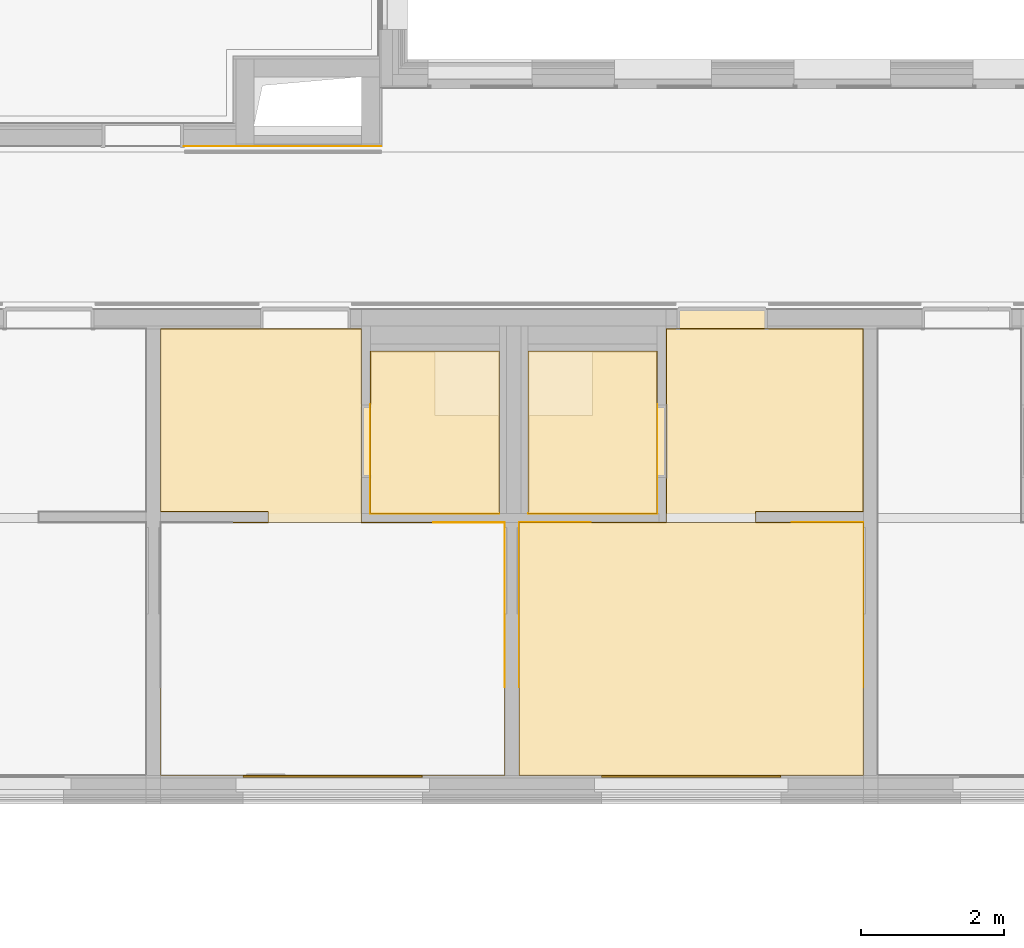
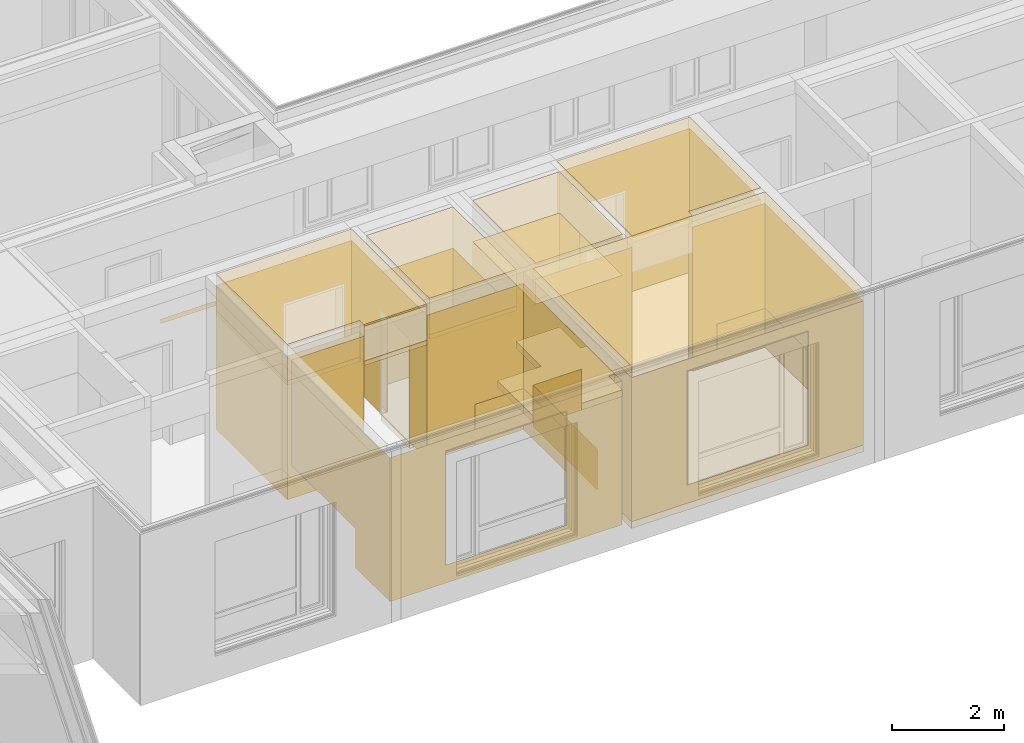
# One storey, part 184 of 222: 30 coverings.
"""IFC4 building model written with IfcOpenShell, lengths in metres."""

from ifc_helpers import new_model, entity, si_unit, converted_unit, derived_unit, frame, frame_2d, origin, origin_with_axes, place, context, subcontext, project, spatial, polyline, rectangle, outline, extrude, material, layer, layer_set, layer_usage, element, save


model = new_model("IFC4")

# Units and contexts
model_context = context("Model", 3, precision=1e-05, world=origin())
body_context = subcontext(model_context, "Body", "Model", "MODEL_VIEW")
ifc_project = project(units=[si_unit("LENGTHUNIT", "METRE"), si_unit("AREAUNIT", "SQUARE_METRE"), si_unit("VOLUMEUNIT", "CUBIC_METRE"), si_unit("MASSUNIT", "GRAM", prefix="KILO"), converted_unit("PLANEANGLEUNIT", "DEGREE", entity("IfcPlaneAngleMeasure", 0.0174532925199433), si_unit("PLANEANGLEUNIT", "RADIAN"), dimensions=[0, 0, 0, 0, 0, 0, 0]), derived_unit("THERMALTRANSMITTANCEUNIT", [(si_unit("POWERUNIT", "WATT"), 1), (si_unit("THERMODYNAMICTEMPERATUREUNIT", "KELVIN"), -1), (si_unit("LENGTHUNIT", "METRE"), -2)]), derived_unit("VOLUMETRICFLOWRATEUNIT", [(si_unit("LENGTHUNIT", "METRE"), 3), (converted_unit("TIMEUNIT", "hour", entity("IfcTimeMeasure", 3600.0), si_unit("TIMEUNIT", "SECOND"), dimensions=[0, 0, 1, 0, 0, 0, 0]), -1), (si_unit("LENGTHUNIT", "METRE"), -1)])], contexts=[model_context])

# Site, building, storey, space
site_placement = place(None, origin())
site = spatial("IfcSite", under=ifc_project, at=site_placement, Name="Psychiatrie Neubau Wunstorf", CompositionType="ELEMENT")
building_placement = place(site_placement, origin())
building = spatial("IfcBuilding", under=site, at=building_placement, Name="Neubau H2 Stationsgebäude", CompositionType="ELEMENT")
storey_placement = place(building_placement, frame((0.0, 0.0, 3.6)))
storey = spatial("IfcBuildingStorey", under=building, at=storey_placement, Name="H2 Ebene +1", CompositionType="ELEMENT", Elevation=3.6)
space_1_placement = place(storey_placement, frame((73.3949999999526, 5.33250000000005, 0.0)))
space_1 = spatial("IfcSpace", under=storey, at=space_1_placement, Name="WUN-H2-E01-073", CompositionType="ELEMENT")

# Covering
ifc_material_1 = material(Name="97")
ifc_layer_1 = layer(ifc_material_1, 0.001)
ifc_layer_set_1 = layer_set([ifc_layer_1])
ifc_layer_usage_1 = layer_usage(ifc_layer_set_1, "AXIS3", "POSITIVE", 0.0)
covering_1_placement = place(space_1_placement, frame((3.02500000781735, 2.275, 0.8)))
element("IfcCovering", 1, at=covering_1_placement, inside=space_1, material=ifc_layer_usage_1, Name="Handlauf", PredefinedType="CLADDING", context=body_context, shape_type="SweptSolid", body=[
    extrude(rectangle(XDim=2.75999962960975, YDim=0.1, at=frame_2d((-1.37999981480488, 0.05), x_axis=(-1.0, 0.0))), frame((0.0, 0.0, 0.1), z_axis=(-3.29527110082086e-16, -1.0, 0.0), x_axis=(-1.0, 3.29527110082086e-16, 0.0)), (0.0, 0.0, 1.0), 0.001),
])

# Space
space_2_placement = place(storey_placement, frame((81.1, -1.16399999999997, 0.0)))
space_2 = spatial("IfcSpace", under=storey, at=space_2_placement, Name="WUN-H2-E01-094", CompositionType="ELEMENT")

# Coverings
ifc_material_2 = material(Name="84")
ifc_layer_2 = layer(ifc_material_2, 0.001)
ifc_layer_set_2 = layer_set([ifc_layer_2])
ifc_layer_usage_2 = layer_usage(ifc_layer_set_2, "AXIS3", "POSITIVE", 0.0)
covering_2_placement = place(space_2_placement, frame((0.0, 1.22450000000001, 0.1)))
element("IfcCovering", 2, at=covering_2_placement, inside=space_2, material=ifc_layer_usage_2, Name="Acrovyn", PredefinedType="CLADDING", context=body_context, shape_type="SweptSolid", body=[
    extrude(rectangle(XDim=1.0, YDim=0.9, at=frame_2d((0.5, -0.45), x_axis=(1.0, 0.0))), frame((1.0, 2.3, 0.0), z_axis=(0.0, -1.0, 0.0), x_axis=(-1.0, 0.0, 0.0)), (0.0, 0.0, 1.0), 0.001),
    extrude(rectangle(XDim=2.3, YDim=0.9, at=frame_2d((1.15, -0.45), x_axis=(1.0, 0.0))), frame((0.0, 2.3, 0.0), z_axis=(1.0, 0.0, 0.0), x_axis=(0.0, -1.0, 0.0)), (0.0, 0.0, 1.0), 0.001),
])
ifc_material_3 = material(Name="84")
ifc_layer_3 = layer(ifc_material_3, 0.001)
ifc_layer_set_3 = layer_set([ifc_layer_3])
ifc_layer_usage_3 = layer_usage(ifc_layer_set_3, "AXIS3", "POSITIVE", 0.0)
covering_3_placement = place(space_2_placement, frame((3.80000004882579, 1.2245, 0.1)))
element("IfcCovering", 3, at=covering_3_placement, inside=space_2, material=ifc_layer_usage_3, Name="Acrovyn", PredefinedType="CLADDING", context=body_context, shape_type="SweptSolid", body=[
    extrude(rectangle(XDim=0.9, YDim=1.0, at=frame_2d((-0.5, -0.45), x_axis=(0.0, -1.0))), frame((0.0, 2.3, 0.0), z_axis=(4.54747350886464e-16, -1.0, 0.0), x_axis=(-1.0, -4.54747350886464e-16, 0.0)), (0.0, 0.0, 1.0), 0.001),
    extrude(rectangle(XDim=0.9, YDim=2.3, at=frame_2d((-1.15, -0.45), x_axis=(0.0, -1.0))), frame((1.0, 2.3, 0.0), z_axis=(-1.0, 0.0, 0.0), x_axis=(0.0, 1.0, 0.0)), (0.0, 0.0, 1.0), 0.001),
])
ifc_material_4 = material()
ifc_layer_4 = layer(ifc_material_4, 0.036)
ifc_layer_set_4 = layer_set([ifc_layer_4])
ifc_layer_usage_4 = layer_usage(ifc_layer_set_4, "AXIS3", "POSITIVE", 0.0)
covering_4_placement = place(space_2_placement, frame((2.04999999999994, 3.52450000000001, 3.55)))
element("IfcCovering", 4, at=covering_4_placement, inside=space_2, material=ifc_layer_usage_4, Name="Gipsfaserplatten 2-lagig (BSK)", PredefinedType="CEILING", context=body_context, shape_type="SweptSolid", body=[
    extrude(outline(polyline([(0.0, 0.0), (2.75000004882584, 0.0), (2.75000004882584, 2.55000000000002), (1.25000004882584, 2.55000000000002), (1.25000004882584, 2.7), (0.0, 2.7), (0.0, 0.0)])), frame((0.0, 2.7, 0.0), z_axis=(0.0, 0.0, -1.0), x_axis=(1.0, 0.0, 0.0)), (0.0, 0.0, 1.0), 0.036),
])
ifc_material_5 = material(Name="Ku1")
ifc_layer_5 = layer(ifc_material_5, 0.15)
ifc_layer_set_5 = layer_set([ifc_layer_5])
ifc_layer_usage_5 = layer_usage(ifc_layer_set_5, "AXIS3", "POSITIVE", 0.0)
covering_5_placement = place(space_2_placement, origin())
element("IfcCovering", 5, at=covering_5_placement, inside=space_2, material=ifc_layer_usage_5, Name="PVC Bahnenware Holzoptik", PredefinedType="FLOORING", context=body_context, shape_type="SweptSolid", body=[
    extrude(rectangle(XDim=0.272, YDim=1.26, at=frame_2d((-0.63, 0.136), x_axis=(0.0, 1.0))), frame((3.45999999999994, 6.22450000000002, 0.0), z_axis=(0.0, 0.0, 1.0), x_axis=(1.0, 0.0, 0.0)), (0.0, 0.0, 1.0), 0.15),
    extrude(outline(polyline([(3.30000004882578, 3.67449999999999), (4.80000004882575, 3.67449999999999), (4.80000004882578, 6.22450000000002), (2.04999999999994, 6.22450000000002), (2.04999999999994, 3.52450000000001), (0.0, 3.52450000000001), (0.0, 0.0), (4.80000004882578, 0.0), (4.80000004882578, 3.52449999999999), (3.30000004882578, 3.52449999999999), (3.30000004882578, 3.67449999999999)])), origin_with_axes(), (0.0, 0.0, 1.0), 0.15),
])
ifc_material_6 = material()
ifc_layer_6 = layer(ifc_material_6, 0.036)
ifc_layer_set_6 = layer_set([ifc_layer_6])
ifc_layer_usage_6 = layer_usage(ifc_layer_set_6, "AXIS3", "POSITIVE", 0.0)
covering_6_placement = place(space_2_placement, frame((0.0, 0.0, 3.55)))
element("IfcCovering", 6, at=covering_6_placement, inside=space_2, material=ifc_layer_usage_6, Name="Gipsfaserplatten 2-lagig (BSK)", PredefinedType="CEILING", context=body_context, shape_type="SweptSolid", body=[
    extrude(rectangle(XDim=3.52449999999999, YDim=4.80000004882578, at=frame_2d((-2.40000002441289, 1.76225), x_axis=(0.0, 1.0))), frame((4.80000004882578, 3.52449999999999, 0.0), z_axis=(0.0, 0.0, -1.0), x_axis=(1.0, 0.0, 0.0)), (0.0, 0.0, 1.0), 0.036),
])
ifc_material_7 = material(Name="Installationshöhe")
ifc_layer_7 = layer(ifc_material_7, 0.114)
ifc_layer_set_7 = layer_set([ifc_layer_7])
ifc_layer_usage_7 = layer_usage(ifc_layer_set_7, "AXIS3", "POSITIVE", 0.0)
covering_7_placement = place(space_2_placement, frame((0.0, 0.0, 3.514)))
element("IfcCovering", 7, at=covering_7_placement, inside=space_2, material=ifc_layer_usage_7, Name="Gipsfaserplatten 2-lagig (BSK)", PredefinedType="CEILING", context=body_context, shape_type="SweptSolid", body=[
    extrude(rectangle(XDim=3.52449999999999, YDim=4.80000004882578, at=frame_2d((-2.40000002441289, 1.76225), x_axis=(0.0, 1.0))), frame((4.80000004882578, 3.52449999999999, 0.0), z_axis=(0.0, 0.0, -1.0), x_axis=(1.0, 0.0, 0.0)), (0.0, 0.0, 1.0), 0.114),
])
ifc_material_8 = material(Name="A1")
ifc_layer_8 = layer(ifc_material_8, 0.1)
ifc_layer_set_8 = layer_set([ifc_layer_8])
ifc_layer_usage_8 = layer_usage(ifc_layer_set_8, "AXIS3", "POSITIVE", 0.0)
covering_8_placement = place(space_2_placement, frame((0.0, 0.0, 3.4)))
element("IfcCovering", 8, at=covering_8_placement, inside=space_2, material=ifc_layer_usage_8, Name="Gipsfaserplatten 2-lagig (BSK)", PredefinedType="CEILING", context=body_context, shape_type="SweptSolid", body=[
    extrude(rectangle(XDim=3.52449999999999, YDim=4.80000004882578, at=frame_2d((-2.40000002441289, 1.76225), x_axis=(0.0, 1.0))), frame((4.80000004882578, 3.52449999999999, 0.0), z_axis=(0.0, 0.0, -1.0), x_axis=(1.0, 0.0, 0.0)), (0.0, 0.0, 1.0), 0.1),
])
ifc_material_9 = material(Name="D1")
ifc_layer_9 = layer(ifc_material_9, 0.001)
ifc_layer_set_9 = layer_set([ifc_layer_9])
ifc_layer_usage_9 = layer_usage(ifc_layer_set_9, "AXIS3", "POSITIVE", 0.0)
covering_9_placement = place(space_2_placement, frame((0.0, 0.0, 3.3)))
element("IfcCovering", 9, at=covering_9_placement, inside=space_2, material=ifc_layer_usage_9, Name="Gipsfaserplatten 2-lagig (BSK)", PredefinedType="CEILING", context=body_context, shape_type="SweptSolid", body=[
    extrude(rectangle(XDim=3.52449999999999, YDim=4.80000004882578, at=frame_2d((-2.40000002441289, 1.76225), x_axis=(0.0, 1.0))), frame((4.80000004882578, 3.52449999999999, 0.0), z_axis=(0.0, 0.0, -1.0), x_axis=(1.0, 0.0, 0.0)), (0.0, 0.0, 1.0), 0.001),
])
ifc_material_10 = material(Name="49")
ifc_layer_10 = layer(ifc_material_10, 0.001)
ifc_layer_set_10 = layer_set([ifc_layer_10])
ifc_layer_usage_10 = layer_usage(ifc_layer_set_10, "AXIS3", "POSITIVE", 0.0)
covering_10_placement = place(space_2_placement, frame((0.0, -0.0250000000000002, 0.15)))
element("IfcCovering", 10, at=covering_10_placement, inside=space_2, material=ifc_layer_usage_10, PredefinedType="CLADDING", context=body_context, shape_type="SweptSolid", body=[
    extrude(outline(polyline([(0.999999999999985, 3.15), (1.5, 3.15), (1.5, 0.0), (0.0, 0.0), (0.0, 2.3), (0.999999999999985, 2.3), (0.999999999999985, 3.15)])), frame((4.80000004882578, 3.54949999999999, 3.15), z_axis=(-1.8708796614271e-15, -1.0, -7.92505756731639e-16), x_axis=(-1.0, 1.8708796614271e-15, 0.0)), (0.0, 0.0, 1.0), 0.001),
    extrude(rectangle(XDim=0.149999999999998, YDim=3.15, at=frame_2d((0.0749999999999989, -1.575), x_axis=(1.0, 0.0))), frame((3.30000004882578, 3.54949999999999, 0.0), z_axis=(-1.0, 0.0, 0.0), x_axis=(0.0, 1.0, 0.0)), (0.0, 0.0, 1.0), 0.001),
    extrude(rectangle(XDim=1.49999999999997, YDim=3.15, at=frame_2d((0.749999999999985, -1.575), x_axis=(1.0, 0.0))), frame((3.30000004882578, 3.69949999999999, 0.0), z_axis=(0.0, 1.0, 0.0), x_axis=(1.0, 0.0, 0.0)), (0.0, 0.0, 1.0), 0.001),
    extrude(rectangle(XDim=2.55000000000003, YDim=3.15, at=frame_2d((1.27500000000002, -1.575), x_axis=(1.0, 0.0))), frame((4.80000004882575, 3.69949999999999, 0.0), z_axis=(-1.0, 1.14132668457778e-14, 0.0), x_axis=(1.14132668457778e-14, 1.0, 0.0)), (0.0, 0.0, 1.0), 0.001),
    extrude(outline(polyline([(0.0, 3.15), (1.34000004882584, 3.15), (1.34000004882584, 0.89), (2.60000004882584, 0.89), (2.60000004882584, 3.15), (2.75000004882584, 3.15), (2.75000004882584, 0.0), (0.0, 0.0), (0.0, 3.15)])), frame((4.80000004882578, 6.24950000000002, 3.15), z_axis=(0.0, -1.0, -1.16864078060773e-16), x_axis=(-1.0, 0.0, 0.0)), (0.0, 0.0, 1.0), 0.001),
    extrude(outline(polyline([(0.0, 3.15), (1.06500000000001, 3.15), (1.06500000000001, 0.89), (2.07500000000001, 0.89), (2.07500000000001, 3.15), (2.70000000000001, 3.15), (2.70000000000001, 0.0), (0.0, 0.0), (0.0, 3.15)])), frame((2.04999999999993, 6.24950000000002, 3.15), z_axis=(1.0, 0.0, -1.55997637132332e-15), x_axis=(0.0, -1.0, 0.0)), (0.0, 0.0, 1.0), 0.001),
    extrude(outline(polyline([(0.0, 3.15), (1.04999999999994, 3.15), (1.04999999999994, 2.3), (2.04999999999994, 2.3), (2.04999999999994, 0.0), (0.0, 0.0), (0.0, 3.15)])), frame((2.04999999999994, 3.54950000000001, 3.15), z_axis=(0.0, -1.0, 0.0), x_axis=(-1.0, 0.0, 0.0)), (0.0, 0.0, 1.0), 0.001),
    extrude(outline(polyline([(2.3, 3.15), (3.52450000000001, 3.15), (3.52450000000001, 0.0), (0.0, 0.0), (0.0, 2.3), (2.3, 2.3), (2.3, 3.15)])), frame((0.0, 3.54950000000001, 3.15), z_axis=(1.0, 0.0, 0.0), x_axis=(0.0, -1.0, 0.0)), (0.0, 0.0, 1.0), 0.001),
    extrude(outline(polyline([(0.0, 3.15), (4.80000004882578, 3.15), (4.80000004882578, 0.0), (0.0, 0.0), (0.0, 3.15)]), holes=[polyline([(3.65000004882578, 2.75), (1.15000004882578, 2.75), (1.15000004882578, 0.25), (3.65000004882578, 0.25), (3.65000004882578, 2.75)])]), frame((0.0, 0.0249999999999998, 3.15), z_axis=(2.12797074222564e-16, 1.0, 0.0), x_axis=(1.0, -2.12797074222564e-16, 0.0)), (0.0, 0.0, 1.0), 0.001),
    extrude(outline(polyline([(0.0, 3.15), (1.2245, 3.15), (1.2245, 2.3), (3.52449999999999, 2.3), (3.52449999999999, 0.0), (0.0, 0.0), (0.0, 3.15)])), frame((4.80000004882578, 0.0250000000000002, 3.15), z_axis=(-1.0, -1.39844789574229e-15, -1.21857413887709e-15), x_axis=(-1.39844789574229e-15, 1.0, 0.0)), (0.0, 0.0, 1.0), 0.001),
    extrude(rectangle(XDim=0.0249999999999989, YDim=2.5, at=frame_2d((0.0124999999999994, -1.25), x_axis=(1.0, 0.0))), frame((1.15000004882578, 0.0249999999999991, 0.4), z_axis=(1.0, -2.9103830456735e-13, 2.91038304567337e-15), x_axis=(-2.9103830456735e-13, -1.0, 0.0)), (0.0, 0.0, 1.0), 0.001),
    extrude(rectangle(XDim=2.5, YDim=0.0249999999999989, at=frame_2d((-1.25000000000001, 0.0124999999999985), x_axis=(-1.0, -7.27595761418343e-16))), frame((3.65000004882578, 0.0249999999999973, 2.9), z_axis=(0.0, 0.0, -1.0), x_axis=(1.0, 0.0, 0.0)), (0.0, 0.0, 1.0), 0.001),
    extrude(rectangle(XDim=2.5, YDim=0.0249999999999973, at=frame_2d((-0.0124999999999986, -1.25), x_axis=(0.0, -1.0))), frame((3.65000004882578, 0.0249999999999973, 0.4), z_axis=(-1.0, 0.0, 0.0), x_axis=(0.0, 1.0, 0.0)), (0.0, 0.0, 1.0), 0.001),
])

# Space
space_3_placement = place(storey_placement, frame((76.0999999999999, -1.16399999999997, 0.0)))
space_3 = spatial("IfcSpace", under=storey, at=space_3_placement, Name="WUN-H2-E01-095", CompositionType="ELEMENT")

# Coverings
ifc_material_11 = material(Name="84")
ifc_layer_11 = layer(ifc_material_11, 0.001)
ifc_layer_set_11 = layer_set([ifc_layer_11])
ifc_layer_usage_11 = layer_usage(ifc_layer_set_11, "AXIS3", "POSITIVE", 0.0)
covering_11_placement = place(space_3_placement, frame((3.80000000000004, 1.22450000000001, 0.1)))
element("IfcCovering", 11, at=covering_11_placement, inside=space_3, material=ifc_layer_usage_11, Name="Acrovyn", PredefinedType="CLADDING", context=body_context, shape_type="SweptSolid", body=[
    extrude(rectangle(XDim=0.9, YDim=1.0, at=frame_2d((-0.5, -0.45), x_axis=(0.0, -1.0))), frame((0.0, 2.3, 0.0), z_axis=(4.54747350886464e-16, -1.0, 0.0), x_axis=(-1.0, -4.54747350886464e-16, 0.0)), (0.0, 0.0, 1.0), 0.001),
    extrude(rectangle(XDim=0.9, YDim=2.3, at=frame_2d((-1.15, -0.45), x_axis=(0.0, -1.0))), frame((1.0, 2.3, 0.0), z_axis=(-1.0, 0.0, 0.0), x_axis=(0.0, 1.0, 0.0)), (0.0, 0.0, 1.0), 0.001),
])
ifc_material_12 = material()
ifc_layer_12 = layer(ifc_material_12, 0.036)
ifc_layer_set_12 = layer_set([ifc_layer_12])
ifc_layer_usage_12 = layer_usage(ifc_layer_set_12, "AXIS3", "POSITIVE", 0.0)
covering_12_placement = place(space_3_placement, frame((0.0, 3.52449999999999, 3.55)))
element("IfcCovering", 12, at=covering_12_placement, inside=space_3, material=ifc_layer_usage_12, Name="Gipsfaserplatten 2-lagig (BSK)", PredefinedType="CEILING", context=body_context, shape_type="SweptSolid", body=[
    extrude(outline(polyline([(2.79999999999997, 0.0), (2.80000000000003, 2.70000000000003), (1.50000000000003, 2.70000000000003), (1.50000000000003, 2.55000000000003), (0.0, 2.55000000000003), (0.0, 0.0), (2.79999999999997, 0.0)])), frame((0.0, 2.70000000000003, 0.0), z_axis=(0.0, 0.0, -1.0), x_axis=(1.0, 0.0, 0.0)), (0.0, 0.0, 1.0), 0.036),
])
ifc_material_13 = material(Name="Installationshöhe")
ifc_layer_13 = layer(ifc_material_13, 0.764)
ifc_layer_set_13 = layer_set([ifc_layer_13])
ifc_layer_usage_13 = layer_usage(ifc_layer_set_13, "AXIS3", "POSITIVE", 0.0)
covering_13_placement = place(space_3_placement, frame((0.0, 3.52449999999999, 3.514)))
element("IfcCovering", 13, at=covering_13_placement, inside=space_3, material=ifc_layer_usage_13, Name="Gipsfaserplatten 2-lagig (BSK)", PredefinedType="CEILING", context=body_context, shape_type="SweptSolid", body=[
    extrude(outline(polyline([(2.79999999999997, 0.0), (2.80000000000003, 2.70000000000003), (1.50000000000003, 2.70000000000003), (1.50000000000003, 2.55000000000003), (0.0, 2.55000000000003), (0.0, 0.0), (2.79999999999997, 0.0)])), frame((0.0, 2.70000000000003, 0.0), z_axis=(0.0, 0.0, -1.0), x_axis=(1.0, 0.0, 0.0)), (0.0, 0.0, 1.0), 0.764),
])
ifc_material_14 = material(Name="A1")
ifc_layer_14 = layer(ifc_material_14, 0.1)
ifc_layer_set_14 = layer_set([ifc_layer_14])
ifc_layer_usage_14 = layer_usage(ifc_layer_set_14, "AXIS3", "POSITIVE", 0.0)
covering_14_placement = place(space_3_placement, frame((0.0, 3.52449999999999, 2.75)))
element("IfcCovering", 14, at=covering_14_placement, inside=space_3, material=ifc_layer_usage_14, Name="Gipsfaserplatten 2-lagig (BSK)", PredefinedType="CEILING", context=body_context, shape_type="SweptSolid", body=[
    extrude(outline(polyline([(2.79999999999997, 0.0), (2.80000000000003, 2.70000000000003), (1.50000000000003, 2.70000000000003), (1.50000000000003, 2.55000000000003), (0.0, 2.55000000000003), (0.0, 0.0), (2.79999999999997, 0.0)])), frame((0.0, 2.70000000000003, 0.0), z_axis=(0.0, 0.0, -1.0), x_axis=(1.0, 0.0, 0.0)), (0.0, 0.0, 1.0), 0.1),
])
ifc_material_15 = material(Name="D1")
ifc_layer_15 = layer(ifc_material_15, 0.001)
ifc_layer_set_15 = layer_set([ifc_layer_15])
ifc_layer_usage_15 = layer_usage(ifc_layer_set_15, "AXIS3", "POSITIVE", 0.0)
covering_15_placement = place(space_3_placement, frame((0.0, 3.52449999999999, 2.65)))
element("IfcCovering", 15, at=covering_15_placement, inside=space_3, material=ifc_layer_usage_15, Name="Gipsfaserplatten 2-lagig (BSK)", PredefinedType="CEILING", context=body_context, shape_type="SweptSolid", body=[
    extrude(outline(polyline([(2.79999999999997, 0.0), (2.80000000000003, 2.70000000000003), (1.50000000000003, 2.70000000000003), (1.50000000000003, 2.55000000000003), (0.0, 2.55000000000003), (0.0, 0.0), (2.79999999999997, 0.0)])), frame((0.0, 2.70000000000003, 0.0), z_axis=(0.0, 0.0, -1.0), x_axis=(1.0, 0.0, 0.0)), (0.0, 0.0, 1.0), 0.001),
])
ifc_material_16 = material(Name="49")
ifc_layer_16 = layer(ifc_material_16, 0.001)
ifc_layer_set_16 = layer_set([ifc_layer_16])
ifc_layer_usage_16 = layer_usage(ifc_layer_set_16, "AXIS3", "POSITIVE", 0.0)
covering_16_placement = place(space_3_placement, frame((0.0, -0.025, 0.15)))
element("IfcCovering", 16, at=covering_16_placement, inside=space_3, material=ifc_layer_usage_16, PredefinedType="CLADDING", context=body_context, shape_type="SweptSolid", body=[
    extrude(outline(polyline([(0.999999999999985, 3.15), (2.0, 3.15), (2.0, 0.0), (0.0, 0.0), (0.0, 2.3), (0.999999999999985, 2.3), (0.999999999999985, 3.15)])), frame((4.8, 3.54950000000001, 3.15), z_axis=(7.44700937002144e-16, -1.0, -8.76118749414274e-16), x_axis=(-1.0, -7.44700937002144e-16, 0.0)), (0.0, 0.0, 1.0), 0.001),
    extrude(outline(polyline([(0.0, 3.15), (0.625, 3.15), (0.625, 0.89), (1.635, 0.89), (1.635, 3.15), (2.70000000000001, 3.15), (2.70000000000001, 0.0), (0.0, 0.0), (0.0, 3.15)])), frame((2.80000000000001, 3.5495, 3.15), z_axis=(-1.0, -1.91174332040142e-14, 8.07017479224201e-16), x_axis=(-1.91174332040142e-14, 1.0, 0.0)), (0.0, 0.0, 1.0), 0.001),
    extrude(outline(polyline([(0.0, 3.15), (0.149999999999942, 3.15), (0.149999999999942, 0.89), (1.40999999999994, 0.89), (1.40999999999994, 3.15), (2.79999999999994, 3.15), (2.79999999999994, 0.0), (0.0, 0.0), (0.0, 3.15)])), frame((2.79999999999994, 6.24950000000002, 3.15), z_axis=(0.0, -1.0, -1.15016718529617e-16), x_axis=(-1.0, 0.0, 0.0)), (0.0, 0.0, 1.0), 0.001),
    extrude(rectangle(XDim=2.55000000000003, YDim=3.15, at=frame_2d((1.27500000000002, -1.575), x_axis=(1.0, 0.0))), frame((0.0, 6.24950000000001, 0.0), z_axis=(1.0, -1.14132668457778e-14, 0.0), x_axis=(-1.14132668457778e-14, -1.0, 0.0)), (0.0, 0.0, 1.0), 0.001),
    extrude(rectangle(XDim=1.50000000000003, YDim=3.15, at=frame_2d((0.750000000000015, -1.575), x_axis=(1.0, 0.0))), frame((0.0, 3.69949999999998, 0.0), z_axis=(0.0, 1.0, 0.0), x_axis=(1.0, 0.0, 0.0)), (0.0, 0.0, 1.0), 0.001),
    extrude(rectangle(XDim=0.15, YDim=3.15, at=frame_2d((0.0749999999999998, -1.575), x_axis=(1.0, 0.0))), frame((1.5, 3.69949999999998, 0.0), z_axis=(1.0, 0.0, 0.0), x_axis=(0.0, -1.0, 0.0)), (0.0, 0.0, 1.0), 0.001),
    extrude(outline(polyline([(0.0, 3.15), (0.5, 3.15), (0.5, 2.3), (1.5, 2.3), (1.5, 0.0), (0.0, 0.0), (0.0, 3.15)])), frame((1.5, 3.54949999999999, 3.15), z_axis=(0.0, -1.0, 0.0), x_axis=(-1.0, 0.0, 0.0)), (0.0, 0.0, 1.0), 0.001),
    extrude(outline(polyline([(2.3, 3.15), (3.52449999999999, 3.15), (3.52449999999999, 0.0), (0.0, 0.0), (0.0, 2.3), (2.3, 2.3), (2.3, 3.15)])), frame((0.0, 3.54949999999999, 3.15), z_axis=(1.0, 0.0, 0.0), x_axis=(0.0, -1.0, 0.0)), (0.0, 0.0, 1.0), 0.001),
    extrude(outline(polyline([(0.0, 3.15), (4.8, 3.15), (4.8, 0.0), (0.0, 0.0), (0.0, 3.15)]), holes=[polyline([(3.65000004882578, 2.75), (1.15000004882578, 2.75), (1.15000004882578, 0.25), (3.65000004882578, 0.25), (3.65000004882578, 2.75)])]), frame((0.0, 0.0249999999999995, 3.15), z_axis=(2.12797075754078e-16, 1.0, 0.0), x_axis=(1.0, -2.12797075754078e-16, 0.0)), (0.0, 0.0, 1.0), 0.001),
    extrude(outline(polyline([(0.0, 3.15), (1.22450000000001, 3.15), (1.22450000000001, 2.3), (3.52450000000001, 2.3), (3.52450000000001, 0.0), (0.0, 0.0), (0.0, 3.15)])), frame((4.8, 0.025, 3.15), z_axis=(-1.0, -1.39844789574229e-15, -1.21857413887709e-15), x_axis=(-1.39844789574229e-15, 1.0, 0.0)), (0.0, 0.0, 1.0), 0.001),
    extrude(rectangle(XDim=0.0249999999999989, YDim=2.5, at=frame_2d((0.0124999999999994, -1.25), x_axis=(1.0, 0.0))), frame((1.15000004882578, 0.0249999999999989, 0.4), z_axis=(1.0, 0.0, 0.0), x_axis=(0.0, -1.0, 0.0)), (0.0, 0.0, 1.0), 0.001),
    extrude(rectangle(XDim=2.5, YDim=0.0249999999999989, at=frame_2d((-1.25, 0.0124999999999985), x_axis=(-1.0, -7.27595761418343e-16))), frame((3.65000004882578, 0.024999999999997, 2.9), z_axis=(0.0, 0.0, -1.0), x_axis=(1.0, 0.0, 0.0)), (0.0, 0.0, 1.0), 0.001),
    extrude(rectangle(XDim=2.5, YDim=0.024999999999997, at=frame_2d((-0.0124999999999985, -1.25), x_axis=(0.0, -1.0))), frame((3.65000004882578, 0.024999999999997, 0.4), z_axis=(-1.0, 0.0, 0.0), x_axis=(0.0, 1.0, 0.0)), (0.0, 0.0, 1.0), 0.001),
])

# Space
space_4_placement = place(storey_placement, frame((79.0249999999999, 2.48550000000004, 0.0)))
space_4 = spatial("IfcSpace", under=storey, at=space_4_placement, Name="WUN-H2-E01-095a", CompositionType="ELEMENT")

# Coverings
ifc_material_17 = material(Name="Fl1")
ifc_layer_17 = layer(ifc_material_17, 0.15)
ifc_layer_set_17 = layer_set([ifc_layer_17])
ifc_layer_usage_17 = layer_usage(ifc_layer_set_17, "AXIS3", "POSITIVE", 0.0)
covering_17_placement = place(space_4_placement, frame((-0.124999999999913, 0.0, 0.0)))
element("IfcCovering", 17, at=covering_17_placement, inside=space_4, material=ifc_layer_usage_17, Name="Fliesen", PredefinedType="FLOORING", context=body_context, shape_type="SweptSolid", body=[
    extrude(rectangle(XDim=0.125, YDim=1.01, at=frame_2d((0.0625, 0.505), x_axis=(1.0, 0.0))), frame((0.0, 0.5, 0.0), z_axis=(0.0, 0.0, 1.0), x_axis=(1.0, 0.0, 0.0)), (0.0, 0.0, 1.0), 0.15),
    extrude(outline(polyline([(0.0, 0.0), (1.80000000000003, 0.0), (1.80000000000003, 1.36499999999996), (0.900000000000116, 1.36499999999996), (0.900000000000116, 2.265), (0.0, 2.265), (0.0, 0.0)])), frame((0.124999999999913, 0.0, 0.0), z_axis=(0.0, 0.0, 1.0), x_axis=(1.0, 0.0, 0.0)), (0.0, 0.0, 1.0), 0.15),
])
ifc_material_18 = material()
ifc_layer_18 = layer(ifc_material_18, 0.036)
ifc_layer_set_18 = layer_set([ifc_layer_18])
ifc_layer_usage_18 = layer_usage(ifc_layer_set_18, "AXIS3", "POSITIVE", 0.0)
covering_18_placement = place(space_4_placement, frame((0.0, 0.0, 3.55)))
element("IfcCovering", 18, at=covering_18_placement, inside=space_4, material=ifc_layer_usage_18, Name="Gipsfaserplatten 2-lagig (BSK)", PredefinedType="CEILING", context=body_context, shape_type="SweptSolid", body=[
    extrude(rectangle(XDim=2.265, YDim=1.80000000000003, at=frame_2d((0.900000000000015, -1.1325), x_axis=(0.0, -1.0))), frame((0.0, 0.0, 0.0), z_axis=(0.0, 0.0, -1.0), x_axis=(1.0, 0.0, 0.0)), (0.0, 0.0, 1.0), 0.036),
])
ifc_material_19 = material(Name="Installationshöhe")
ifc_layer_19 = layer(ifc_material_19, 0.764)
ifc_layer_set_19 = layer_set([ifc_layer_19])
ifc_layer_usage_19 = layer_usage(ifc_layer_set_19, "AXIS3", "POSITIVE", 0.0)
covering_19_placement = place(space_4_placement, frame((0.0, 0.0, 3.514)))
element("IfcCovering", 19, at=covering_19_placement, inside=space_4, material=ifc_layer_usage_19, Name="Gipsfaserplatten 2-lagig (BSK)", PredefinedType="CEILING", context=body_context, shape_type="SweptSolid", body=[
    extrude(rectangle(XDim=2.265, YDim=1.80000000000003, at=frame_2d((0.900000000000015, -1.1325), x_axis=(0.0, -1.0))), frame((0.0, 0.0, 0.0), z_axis=(0.0, 0.0, -1.0), x_axis=(1.0, 0.0, 0.0)), (0.0, 0.0, 1.0), 0.764),
])
ifc_material_20 = material(Name="B")
ifc_layer_20 = layer(ifc_material_20, 0.1)
ifc_layer_set_20 = layer_set([ifc_layer_20])
ifc_layer_usage_20 = layer_usage(ifc_layer_set_20, "AXIS3", "POSITIVE", 0.0)
covering_20_placement = place(space_4_placement, frame((0.0, 0.0, 2.75)))
element("IfcCovering", 20, at=covering_20_placement, inside=space_4, material=ifc_layer_usage_20, Name="Gipskarton, imprägniert", PredefinedType="CEILING", context=body_context, shape_type="SweptSolid", body=[
    extrude(rectangle(XDim=2.265, YDim=1.80000000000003, at=frame_2d((0.900000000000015, -1.1325), x_axis=(0.0, -1.0))), frame((0.0, 0.0, 0.0), z_axis=(0.0, 0.0, -1.0), x_axis=(1.0, 0.0, 0.0)), (0.0, 0.0, 1.0), 0.1),
])
ifc_material_21 = material(Name="D1")
ifc_layer_21 = layer(ifc_material_21, 0.001)
ifc_layer_set_21 = layer_set([ifc_layer_21])
ifc_layer_usage_21 = layer_usage(ifc_layer_set_21, "AXIS3", "POSITIVE", 0.0)
covering_21_placement = place(space_4_placement, frame((0.0, 0.0, 2.65)))
element("IfcCovering", 21, at=covering_21_placement, inside=space_4, material=ifc_layer_usage_21, Name="Gipsfaserplatten 2-lagig (BSK)", PredefinedType="CEILING", context=body_context, shape_type="SweptSolid", body=[
    extrude(rectangle(XDim=2.265, YDim=1.80000000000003, at=frame_2d((0.900000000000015, -1.1325), x_axis=(0.0, -1.0))), frame((0.0, 0.0, 0.0), z_axis=(0.0, 0.0, -1.0), x_axis=(1.0, 0.0, 0.0)), (0.0, 0.0, 1.0), 0.001),
])
ifc_material_22 = material(Name="50")
ifc_layer_22 = layer(ifc_material_22, 0.001)
ifc_layer_set_22 = layer_set([ifc_layer_22])
ifc_layer_usage_22 = layer_usage(ifc_layer_set_22, "AXIS3", "POSITIVE", 0.0)
covering_22_placement = place(space_4_placement, frame((0.0, 0.0, 0.15)))
element("IfcCovering", 22, at=covering_22_placement, inside=space_4, material=ifc_layer_usage_22, PredefinedType="CLADDING", context=body_context, shape_type="SweptSolid", body=[
    extrude(outline(polyline([(0.0, 2.5), (0.0149999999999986, 2.5), (0.0149999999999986, 0.24), (1.025, 0.24), (1.025, 2.5), (1.525, 2.5), (1.525, 0.0), (0.0, 0.0), (0.0, 2.5)])), frame((0.0, 1.525, 2.5), z_axis=(1.0, 0.0, -1.50182236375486e-14), x_axis=(0.0, -1.0, 0.0)), (0.0, 0.0, 1.0), 0.001),
    extrude(rectangle(XDim=1.80000000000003, YDim=2.5, at=frame_2d((0.900000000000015, -1.25), x_axis=(1.0, 0.0))), frame((0.0, 0.0, 0.0), z_axis=(0.0, 1.0, 0.0), x_axis=(1.0, 0.0, 0.0)), (0.0, 0.0, 1.0), 0.001),
])
ifc_material_23 = material(Name="68")
ifc_layer_23 = layer(ifc_material_23, 0.01)
ifc_layer_set_23 = layer_set([ifc_layer_23])
ifc_layer_usage_23 = layer_usage(ifc_layer_set_23, "AXIS3", "POSITIVE", 0.0)
covering_23_placement = place(space_4_placement, frame((0.0, 0.0, 0.15)))
element("IfcCovering", 23, at=covering_23_placement, inside=space_4, material=ifc_layer_usage_23, Name="a-sh Wandbelag", PredefinedType="CLADDING", context=body_context, shape_type="SweptSolid", body=[
    extrude(rectangle(XDim=2.265, YDim=2.5, at=frame_2d((1.1325, -1.25), x_axis=(1.0, 0.0))), frame((1.80000000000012, 0.0, 0.0), z_axis=(-1.0, 0.0, 0.0), x_axis=(0.0, 1.0, 0.0)), (0.0, 0.0, 1.0), 0.01),
    extrude(rectangle(XDim=0.740000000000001, YDim=2.5, at=frame_2d((0.37, -1.25), x_axis=(1.0, 0.0))), frame((0.0, 2.26500000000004, 0.0), z_axis=(1.0, 0.0, 0.0), x_axis=(0.0, -1.0, 0.0)), (0.0, 0.0, 1.0), 0.01),
    extrude(rectangle(XDim=1.80000000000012, YDim=2.5, at=frame_2d((0.900000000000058, -1.25), x_axis=(1.0, 0.0))), frame((1.80000000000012, 2.265, 0.0), z_axis=(-1.97057185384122e-14, -1.0, 0.0), x_axis=(-1.0, 1.97057185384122e-14, 0.0)), (0.0, 0.0, 1.0), 0.01),
])

# Space
space_5_placement = place(storey_placement, frame((81.2249999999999, 2.48550000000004, 0.0)))
space_5 = spatial("IfcSpace", under=storey, at=space_5_placement, Name="WUN-H2-E01-094a", CompositionType="ELEMENT")

# Coverings
ifc_material_24 = material(Name="Fl1")
ifc_layer_24 = layer(ifc_material_24, 0.15)
ifc_layer_set_24 = layer_set([ifc_layer_24])
ifc_layer_usage_24 = layer_usage(ifc_layer_set_24, "AXIS3", "POSITIVE", 0.0)
covering_24_placement = place(space_5_placement, origin())
element("IfcCovering", 24, at=covering_24_placement, inside=space_5, material=ifc_layer_usage_24, Name="Fliesen", PredefinedType="FLOORING", context=body_context, shape_type="SweptSolid", body=[
    extrude(rectangle(XDim=0.125, YDim=1.01, at=frame_2d((-0.0625, -0.505), x_axis=(-1.0, 0.0))), frame((1.925, 1.51, 0.0), z_axis=(0.0, 0.0, 1.0), x_axis=(1.0, 0.0, 0.0)), (0.0, 0.0, 1.0), 0.15),
    extrude(outline(polyline([(0.0, 0.0), (1.79999999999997, 0.0), (1.79999999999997, 2.26500000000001), (0.9, 2.26500000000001), (0.9, 1.36500000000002), (0.0, 1.36500000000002), (0.0, 0.0)])), origin_with_axes(), (0.0, 0.0, 1.0), 0.15),
])
ifc_material_25 = material()
ifc_layer_25 = layer(ifc_material_25, 0.036)
ifc_layer_set_25 = layer_set([ifc_layer_25])
ifc_layer_usage_25 = layer_usage(ifc_layer_set_25, "AXIS3", "POSITIVE", 0.0)
covering_25_placement = place(space_5_placement, frame((0.0, 0.0, 3.55)))
element("IfcCovering", 25, at=covering_25_placement, inside=space_5, material=ifc_layer_usage_25, Name="Gipsfaserplatten 2-lagig (BSK)", PredefinedType="CEILING", context=body_context, shape_type="SweptSolid", body=[
    extrude(rectangle(XDim=1.79999999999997, YDim=2.26500000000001, at=frame_2d((0.899999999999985, 1.1325), x_axis=(1.0, 0.0))), frame((0.0, 2.26500000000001, 0.0), z_axis=(0.0, 0.0, -1.0), x_axis=(1.0, 0.0, 0.0)), (0.0, 0.0, 1.0), 0.036),
])
ifc_material_26 = material(Name="Installationshöhe")
ifc_layer_26 = layer(ifc_material_26, 0.764)
ifc_layer_set_26 = layer_set([ifc_layer_26])
ifc_layer_usage_26 = layer_usage(ifc_layer_set_26, "AXIS3", "POSITIVE", 0.0)
covering_26_placement = place(space_5_placement, frame((0.0, 0.0, 3.514)))
element("IfcCovering", 26, at=covering_26_placement, inside=space_5, material=ifc_layer_usage_26, Name="Gipsfaserplatten 2-lagig (BSK)", PredefinedType="CEILING", context=body_context, shape_type="SweptSolid", body=[
    extrude(rectangle(XDim=1.79999999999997, YDim=2.26500000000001, at=frame_2d((0.899999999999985, 1.1325), x_axis=(1.0, 0.0))), frame((0.0, 2.26500000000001, 0.0), z_axis=(0.0, 0.0, -1.0), x_axis=(1.0, 0.0, 0.0)), (0.0, 0.0, 1.0), 0.764),
])
ifc_material_27 = material(Name="B")
ifc_layer_27 = layer(ifc_material_27, 0.1)
ifc_layer_set_27 = layer_set([ifc_layer_27])
ifc_layer_usage_27 = layer_usage(ifc_layer_set_27, "AXIS3", "POSITIVE", 0.0)
covering_27_placement = place(space_5_placement, frame((0.0, 0.0, 2.75)))
element("IfcCovering", 27, at=covering_27_placement, inside=space_5, material=ifc_layer_usage_27, Name="Gipskarton, imprägniert", PredefinedType="CEILING", context=body_context, shape_type="SweptSolid", body=[
    extrude(rectangle(XDim=1.79999999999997, YDim=2.26500000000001, at=frame_2d((0.899999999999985, 1.1325), x_axis=(1.0, 0.0))), frame((0.0, 2.26500000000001, 0.0), z_axis=(0.0, 0.0, -1.0), x_axis=(1.0, 0.0, 0.0)), (0.0, 0.0, 1.0), 0.1),
])
ifc_material_28 = material(Name="D1")
ifc_layer_28 = layer(ifc_material_28, 0.001)
ifc_layer_set_28 = layer_set([ifc_layer_28])
ifc_layer_usage_28 = layer_usage(ifc_layer_set_28, "AXIS3", "POSITIVE", 0.0)
covering_28_placement = place(space_5_placement, frame((0.0, 0.0, 2.65)))
element("IfcCovering", 28, at=covering_28_placement, inside=space_5, material=ifc_layer_usage_28, Name="Gipsfaserplatten 2-lagig (BSK)", PredefinedType="CEILING", context=body_context, shape_type="SweptSolid", body=[
    extrude(rectangle(XDim=1.79999999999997, YDim=2.26500000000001, at=frame_2d((0.899999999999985, 1.1325), x_axis=(1.0, 0.0))), frame((0.0, 2.26500000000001, 0.0), z_axis=(0.0, 0.0, -1.0), x_axis=(1.0, 0.0, 0.0)), (0.0, 0.0, 1.0), 0.001),
])
ifc_material_29 = material(Name="50")
ifc_layer_29 = layer(ifc_material_29, 0.001)
ifc_layer_set_29 = layer_set([ifc_layer_29])
ifc_layer_usage_29 = layer_usage(ifc_layer_set_29, "AXIS3", "POSITIVE", 0.0)
covering_29_placement = place(space_5_placement, frame((0.0, 0.0, 0.15)))
element("IfcCovering", 29, at=covering_29_placement, inside=space_5, material=ifc_layer_usage_29, PredefinedType="CLADDING", context=body_context, shape_type="SweptSolid", body=[
    extrude(rectangle(XDim=1.79999999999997, YDim=2.5, at=frame_2d((0.899999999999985, -1.25), x_axis=(1.0, 0.0))), frame((0.0, 0.0, 0.0), z_axis=(0.0, 1.0, 0.0), x_axis=(1.0, 0.0, 0.0)), (0.0, 0.0, 1.0), 0.001),
    extrude(outline(polyline([(0.0, 2.5), (0.5, 2.5), (0.5, 0.24), (1.51, 0.24), (1.51, 2.5), (1.525, 2.5), (1.525, 0.0), (0.0, 0.0), (0.0, 2.5)])), frame((1.79999999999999, 0.0, 2.5), z_axis=(-1.0, 0.0, 3.00364472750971e-15), x_axis=(0.0, 1.0, 0.0)), (0.0, 0.0, 1.0), 0.001),
])
ifc_material_30 = material(Name="68")
ifc_layer_30 = layer(ifc_material_30, 0.01)
ifc_layer_set_30 = layer_set([ifc_layer_30])
ifc_layer_usage_30 = layer_usage(ifc_layer_set_30, "AXIS3", "POSITIVE", 0.0)
covering_30_placement = place(space_5_placement, frame((0.0, 0.0, 0.15)))
element("IfcCovering", 30, at=covering_30_placement, inside=space_5, material=ifc_layer_usage_30, Name="a-sh Wandbelag", PredefinedType="CLADDING", context=body_context, shape_type="SweptSolid", body=[
    extrude(rectangle(XDim=0.74000000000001, YDim=2.5, at=frame_2d((0.370000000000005, -1.25), x_axis=(1.0, 0.0))), frame((1.79999999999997, 1.52499999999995, 0.0), z_axis=(-1.0, 0.0, 0.0), x_axis=(0.0, 1.0, 0.0)), (0.0, 0.0, 1.0), 0.01),
    extrude(rectangle(XDim=2.26499999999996, YDim=2.5, at=frame_2d((1.13249999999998, -1.25), x_axis=(1.0, 0.0))), frame((0.0, 2.26499999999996, 0.0), z_axis=(1.0, 0.0, 0.0), x_axis=(0.0, -1.0, 0.0)), (0.0, 0.0, 1.0), 0.01),
    extrude(rectangle(XDim=1.79999999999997, YDim=2.5, at=frame_2d((0.899999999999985, -1.25), x_axis=(1.0, 0.0))), frame((1.79999999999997, 2.26499999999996, 0.0), z_axis=(0.0, -1.0, 0.0), x_axis=(-1.0, 0.0, 0.0)), (0.0, 0.0, 1.0), 0.01),
])

save(model, "model.ifc")
